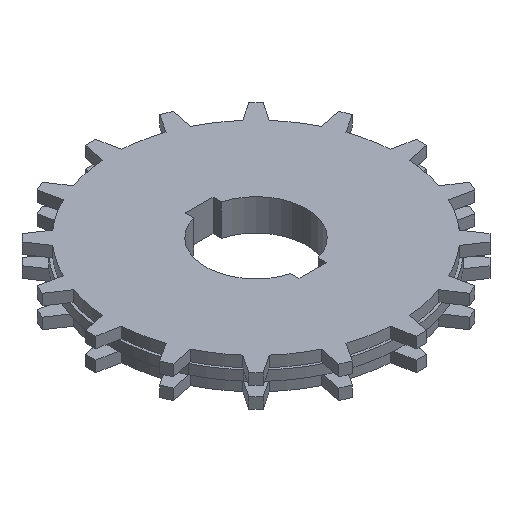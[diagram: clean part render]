
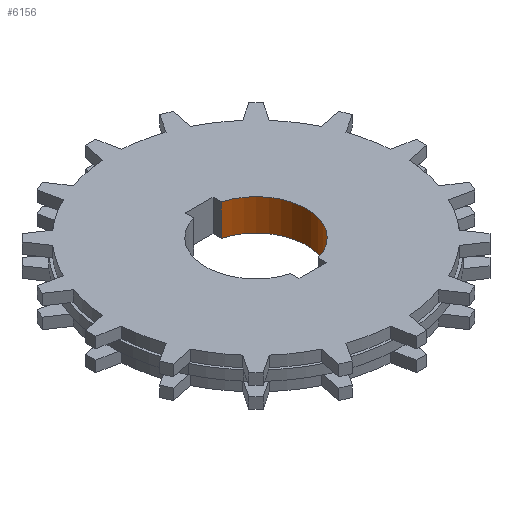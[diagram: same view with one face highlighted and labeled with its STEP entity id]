
A CAD part, isometric view. The second image highlights one B-rep face of the part: STEP entity #6156.
In plain terms, the highlighted cylindrical face has radius 59.995 mm (diameter 119.99 mm), a partial arc.
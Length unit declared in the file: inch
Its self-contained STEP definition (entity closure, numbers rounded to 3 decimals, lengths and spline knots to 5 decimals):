
#214=CARTESIAN_POINT('',(0.,0.,-0.74));
#215=DIRECTION('',(0.,0.,1.));
#216=DIRECTION('',(0.27,-0.963,0.));
#217=AXIS2_PLACEMENT_3D('',#214,#215,#216);
#1097=CARTESIAN_POINT('',(0.,0.,0.74));
#1098=DIRECTION('',(0.,0.,1.));
#1099=DIRECTION('',(0.27,-0.963,0.));
#1100=AXIS2_PLACEMENT_3D('',#1097,#1098,#1099);
#2261=DIRECTION('',(0.,0.,1.));
#2262=VECTOR('',#2261,1.48);
#2263=CARTESIAN_POINT('',(0.63742,-2.27437,-0.74));
#2264=LINE('',#2263,#2262);
#2273=DIRECTION('',(0.,0.,-1.));
#2274=VECTOR('',#2273,1.48);
#2275=CARTESIAN_POINT('',(0.63742,2.27437,0.74));
#2276=LINE('',#2275,#2274);
#2697=CARTESIAN_POINT('',(0.63742,2.27437,-0.74));
#2699=VERTEX_POINT('',#2697);
#2705=CARTESIAN_POINT('',(0.63742,2.27437,0.74));
#2707=VERTEX_POINT('',#2705);
#2719=CARTESIAN_POINT('',(0.63742,-2.27437,-0.74));
#2720=VERTEX_POINT('',#2719);
#2727=CARTESIAN_POINT('',(0.63742,-2.27437,0.74));
#2728=VERTEX_POINT('',#2727);
#6144=CARTESIAN_POINT('',(0.,0.,0.888));
#6145=DIRECTION('',(0.,0.,1.));
#6146=DIRECTION('',(1.,0.,0.));
#6147=AXIS2_PLACEMENT_3D('',#6144,#6145,#6146);
#6148=CYLINDRICAL_SURFACE('',#6147,2.362);
#6149=ORIENTED_EDGE('',*,*,#6124,.F.);
#6150=ORIENTED_EDGE('',*,*,#3102,.T.);
#6152=ORIENTED_EDGE('',*,*,#6151,.F.);
#6153=ORIENTED_EDGE('',*,*,#4670,.F.);
#6154=EDGE_LOOP('',(#6149,#6150,#6152,#6153));
#6155=FACE_OUTER_BOUND('',#6154,.F.);
#6156=ADVANCED_FACE('',(#6155),#6148,.F.);
#218=CIRCLE('',#217,2.362);
#1101=CIRCLE('',#1100,2.362);
#3102=EDGE_CURVE('',#2720,#2699,#218,.T.);
#4670=EDGE_CURVE('',#2728,#2707,#1101,.T.);
#6124=EDGE_CURVE('',#2720,#2728,#2264,.T.);
#6151=EDGE_CURVE('',#2707,#2699,#2276,.T.);
